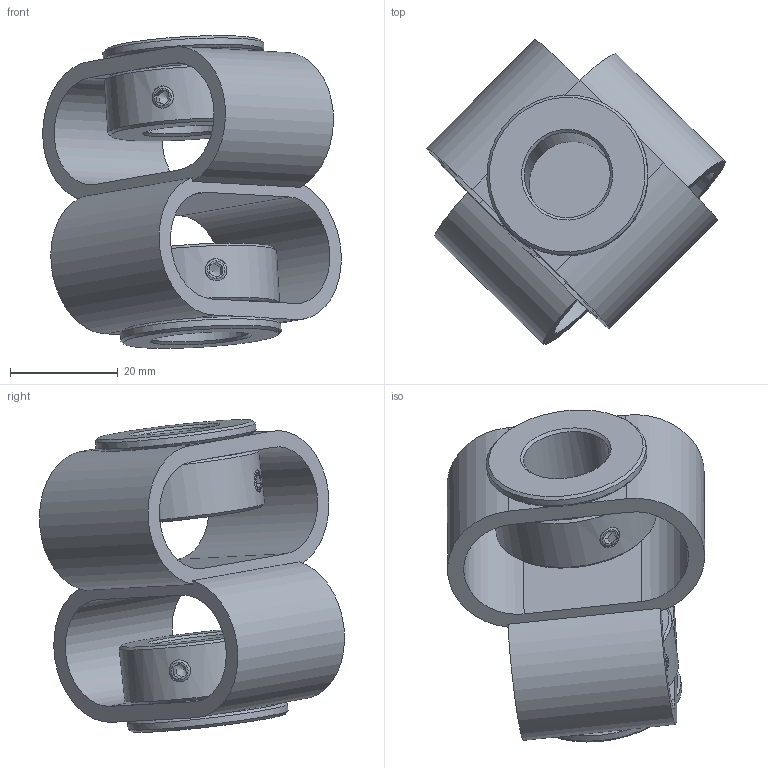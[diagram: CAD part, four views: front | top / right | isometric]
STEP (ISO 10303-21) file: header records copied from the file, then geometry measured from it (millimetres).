
FILE_DESCRIPTION(/* description */ (''),/* implementation_level */ '2;1');
FILE_NAME(/* name */ 'E:\ABP_bauteile\Doppelschlaufenkupplung\DKPS_5658\Doppelschlaufenkupplung_DKPS_5658_16_18.stp',/* time_stamp */ '2015-03-13T11:54:57+01:00',/* author */ ('Rob'),/* organization */ (''),/* preprocessor_version */ 'ST-DEVELOPER v15.6',/* originating_system */ 'Autodesk Inventor 2015',/* authorisation */ '');
FILE_SCHEMA (('CONFIG_CONTROL_DESIGN'));
Length unit declared in the file: millimetre
Products named in the file (1): Bauteil58
Bounding box: 55.53 x 56.74 x 58.16 mm (x, y, z)
Volume: 29355.1 mm3; surface area: 18047 mm2
Topology: 1 solids, 1 shells, 142 faces, 360 edges, 218 vertices
Faces by surface type: plane 84, cone 30, cylinder 28
Full cylindrical faces by diameter (mm): 4.134 x8, 16 x1, 18 x1, 21.5 x2, 23 x4, 30 x4
Entity records: 4088 total; most frequent: CARTESIAN_POINT 1027, DIRECTION 646, ORIENTED_EDGE 556, EDGE_CURVE 278, AXIS2_PLACEMENT_3D 257, EDGE_LOOP 210, VERTEX_POINT 182, FACE_OUTER_BOUND 142
